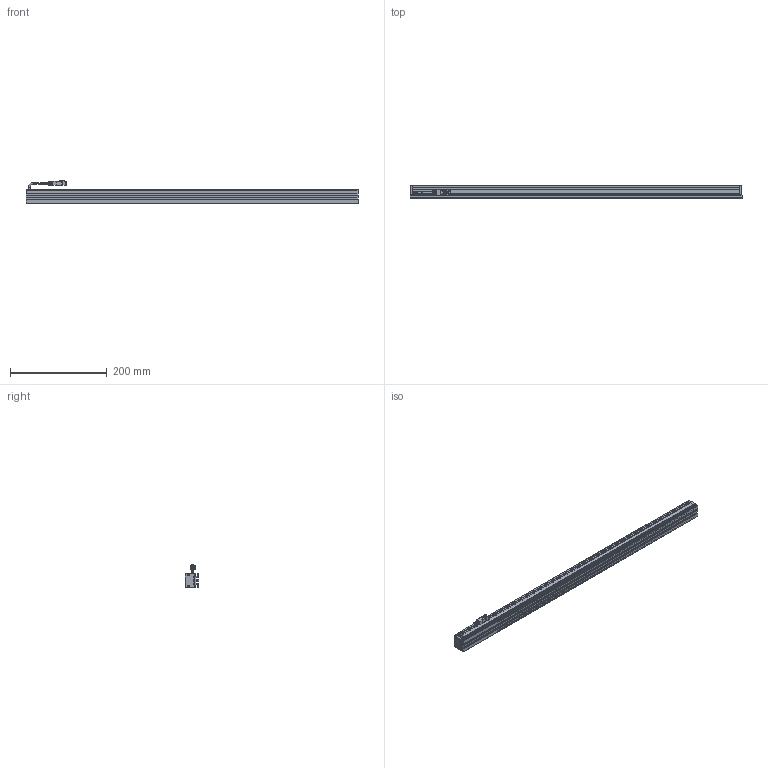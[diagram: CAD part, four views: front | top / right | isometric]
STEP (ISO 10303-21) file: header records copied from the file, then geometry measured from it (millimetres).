
FILE_DESCRIPTION (( 'STEP AP203' ), '1' );
FILE_NAME ('CK-BL68728.STEP', '2026-01-02T06:25:32', ( '' ), ( '' ), 'SwSTEP 2.0', 'SolidWorks 2022', '' );
FILE_SCHEMA (( 'CONFIG_CONTROL_DESIGN' ));
Length unit declared in the file: millimetre
Products named in the file (6): 光源线-01; CK-BL68728-002A; 十字沉头螺丝 M2x10; CK-BL68728-001A; CK-BL68728; CK-BL68728-003A
Assembly tree (11 placements, depth 2):
  CK-BL68728
    CK-BL68728-001A
    CK-BL68728-002A  x2
    CK-BL68728-003A
    光源线-01
    十字沉头螺丝 M2x10  x6
Bounding box: 687 x 27 x 47.34 mm (x, y, z)
Volume: 221485.6 mm3; surface area: 193878.8 mm2
Topology: 13 solids, 13 shells, 575 faces, 1494 edges, 950 vertices
Faces by surface type: plane 337, cylinder 172, cone 46, bspline 20
Entity records: 13997 total; most frequent: CARTESIAN_POINT 2782, ORIENTED_EDGE 2202, DIRECTION 2163, EDGE_CURVE 1101, LINE 781, VECTOR 781, VERTEX_POINT 714, AXIS2_PLACEMENT_3D 691
